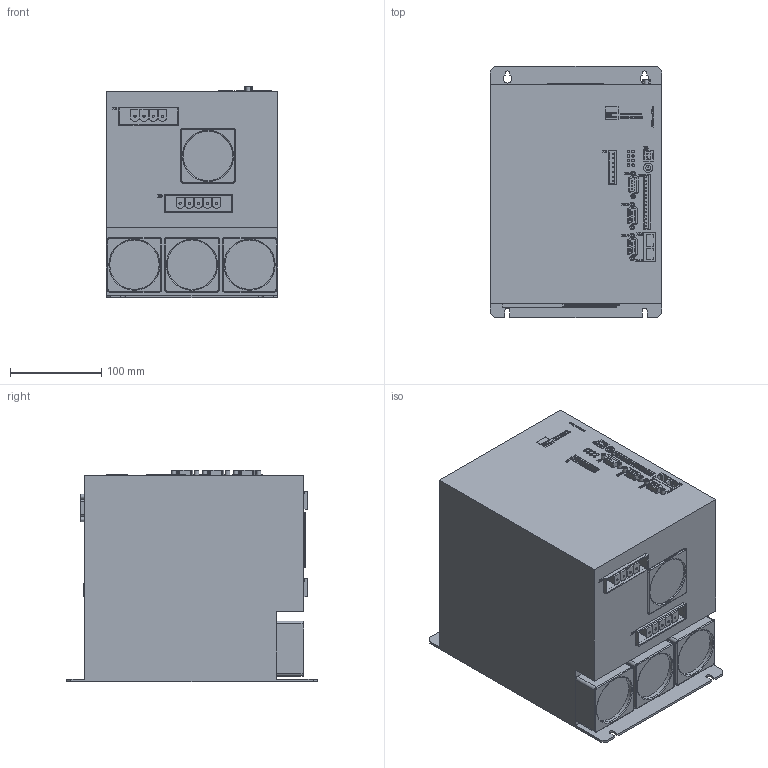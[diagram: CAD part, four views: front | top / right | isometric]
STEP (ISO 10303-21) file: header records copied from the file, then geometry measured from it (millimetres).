
FILE_DESCRIPTION(/* description */ ('Alibre Inc.'),/* implementation_level */ '2;1');
FILE_NAME(/* name */ 'export0',/* time_stamp */ '2014-04-17T14:36:37+02:00',/* author */ (''),/* organization */ (''),/* preprocessor_version */ 'ST-DEVELOPER v12',/* originating_system */ 'Alibre',/* authorisation */ '');
FILE_SCHEMA (('AUTOMOTIVE_DESIGN'));
Length unit declared in the file: centimetre
Bounding box: 188 x 275 x 231 mm (x, y, z)
Surface area: 358737 mm2
Topology: 16 solids, 25 shells, 2185 faces, 5599 edges, 3712 vertices
Faces by surface type: plane 1143, bspline 792, cylinder 222, torus 28
Full cylindrical faces by diameter (mm): 1 x63, 2 x4, 2.5 x25, 3 x10, 5 x16, 5.5 x1, 10 x1, 54 x4
Entity records: 64783 total; most frequent: CARTESIAN_POINT 18444, ORIENTED_EDGE 10958, DIRECTION 5914, EDGE_CURVE 5463, VERTEX_POINT 3712, VECTOR 3423, LINE 3423, EDGE_LOOP 2621
